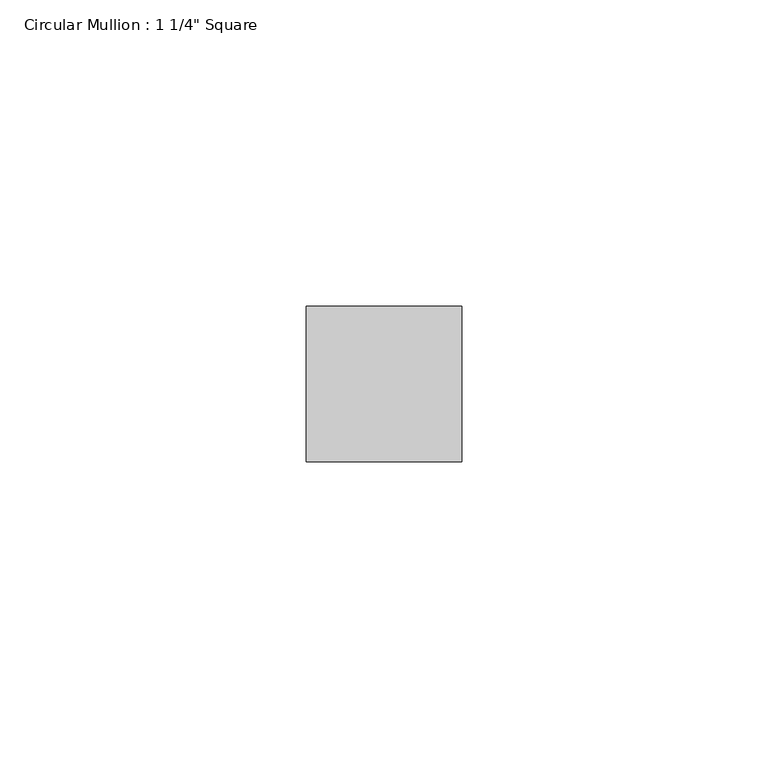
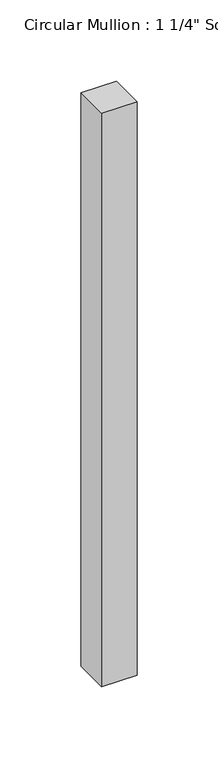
"""IFC4 building model written with IfcOpenShell, lengths in millimetres: member geometry."""

from ifc_helpers import new_model, si_unit, frame, origin, place, context, project, spatial, polyline, outline, extrude, source, transform, mapped, element, save


def member_0e6c94ff(model_context):
    return source(origin(), model_context, "Body", "SweptSolid", [
        extrude(outline(polyline([(0.0, 12.7), (0.0, -12.7), (-25.4, -12.7), (-25.4, 12.7), (0.0, 12.7)])), frame((0.0, 0.0, -431.8), z_axis=(0.0, 0.0, 1.0), x_axis=(1.0, 0.0, 0.0)), (0.0, 0.0, 1.0), 431.8),
    ])


if __name__ == "__main__":
    model = new_model("IFC4")
    model_context = context("Model", 3, world=origin())
    ifc_project = project(units=[si_unit("LENGTHUNIT", "METRE", prefix="MILLI")], contexts=[model_context])
    site = spatial("IfcSite", under=ifc_project)
    building = spatial("IfcBuilding", under=site)
    placement = place(None, origin())
    member_shape = member_0e6c94ff(model_context)
    element("IfcMember", 1, ObjectType="Circular Mullion : 1 1/4\" Square", at=placement, inside=building, context=model_context, shape_type="MappedRepresentation", body=[
        mapped(member_shape, transform((0.0, 0.0, 0.0), x_axis=(1.0, 0.0, 0.0), y_axis=(0.0, 1.0, 0.0), z_axis=(0.0, 0.0, 1.0))),
    ])
    save(model, "model.ifc")
